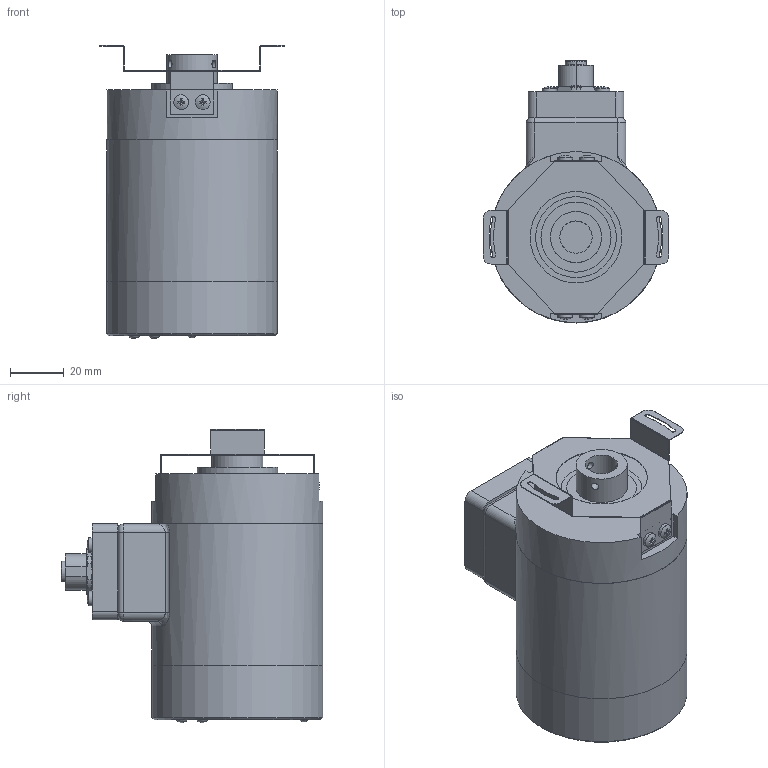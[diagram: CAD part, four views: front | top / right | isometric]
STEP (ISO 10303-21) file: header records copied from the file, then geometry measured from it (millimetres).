
FILE_DESCRIPTION(/* description */ ('Alibre Inc.'),/* implementation_level */ '2;1');
FILE_NAME(/* name */ 'export0',/* time_stamp */ '2010-05-25T09:15:54-04:00',/* author */ (''),/* organization */ (''),/* preprocessor_version */ 'ST-DEVELOPER v10',/* originating_system */ 'Alibre',/* authorisation */ '');
FILE_SCHEMA (('CONFIG_CONTROL_DESIGN'));
Length unit declared in the file: centimetre
Products named in the file (16): ID_1; ID_2; ID_3; ID_4; ID_5; ID_6; ID_7; ID_8; ID_9; ID_10; ID_11; ID_12
Bounding box: 69 x 97.22 x 108.87 mm (x, y, z)
Volume: 316934.8 mm3; surface area: 63745.6 mm2
Topology: 20 solids, 20 shells, 501 faces, 1182 edges, 771 vertices
Faces by surface type: plane 162, cylinder 144, bspline 144, cone 35, torus 8, sphere 8
Full cylindrical faces by diameter (mm): 2.87 x15, 2.92 x2, 3 x21, 3.2 x4, 3.96 x4, 5.44 x8, 11.5 x1, 12 x1, 19 x3, 20 x2, 24 x2, 26 x2, 30 x1, 34 x1, 37 x2, 58.72 x2, 63.5 x3
Entity records: 12366 total; most frequent: CARTESIAN_POINT 3229, DIRECTION 1454, ORIENTED_EDGE 1408, EDGE_CURVE 704, AXIS2_PLACEMENT_3D 651, VERTEX_POINT 493, EDGE_LOOP 483, FACE_BOUND 483
